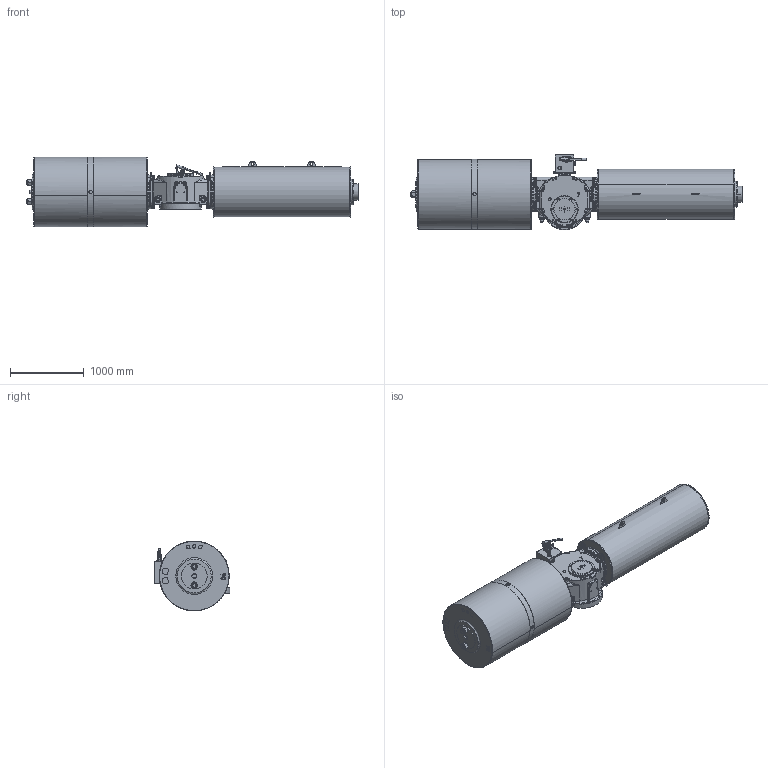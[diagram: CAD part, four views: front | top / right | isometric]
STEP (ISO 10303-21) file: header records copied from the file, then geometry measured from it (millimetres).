
FILE_DESCRIPTION (( 'STEP AP203' ), '1' );
FILE_NAME ('VTS7-900D-SR-MH-FC.STEP', '2023-01-01T10:14:09', ( '' ), ( '' ), 'SwSTEP 2.0', 'SolidWorks 2020', '' );
FILE_SCHEMA (( 'CONFIG_CONTROL_DESIGN' ));
Length unit declared in the file: millimetre
Products named in the file (1): VTS7-900D-SR-MH-FC
Bounding box: 4508 x 1027 x 947 mm (x, y, z)
Volume: 1989278004.3 mm3; surface area: 15925698.1 mm2
Topology: 42 solids, 43 shells, 3934 faces, 9530 edges, 5840 vertices
Faces by surface type: cylinder 1353, plane 1276, cone 896, bspline 376, torus 33
Entity records: 144415 total; most frequent: CARTESIAN_POINT 54281, DIRECTION 19112, ORIENTED_EDGE 18764, EDGE_CURVE 9382, AXIS2_PLACEMENT_3D 7675, VERTEX_POINT 5840, EDGE_LOOP 4360, CIRCLE 4116
